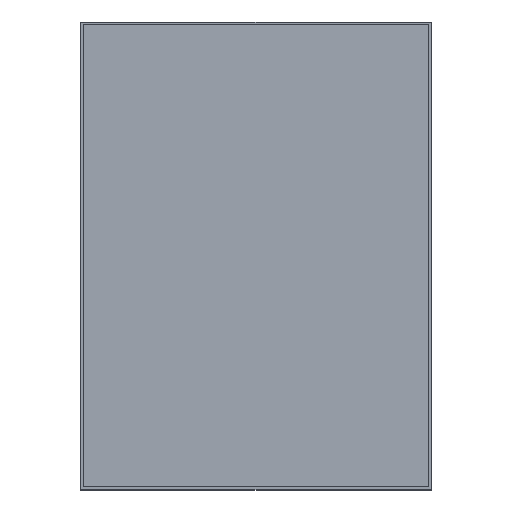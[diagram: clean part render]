
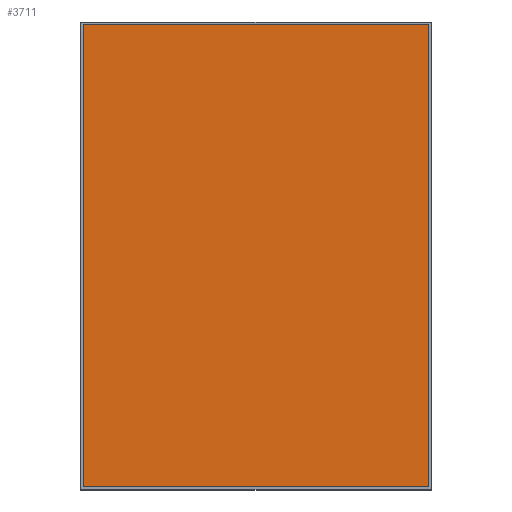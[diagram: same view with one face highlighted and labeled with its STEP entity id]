
A CAD part, top view. The second image highlights one B-rep face of the part: STEP entity #3711.
In plain terms, the highlighted planar face has unit normal (0, 0, 1).
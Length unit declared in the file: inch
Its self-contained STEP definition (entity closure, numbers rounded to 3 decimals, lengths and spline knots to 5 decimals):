
#1163=DIRECTION('',(1.,0.,0.));
#1164=VECTOR('',#1163,11.82);
#1165=CARTESIAN_POINT('',(-5.9164,-7.91,8.8));
#1166=LINE('',#1165,#1164);
#1167=DIRECTION('',(0.,-1.,0.));
#1168=VECTOR('',#1167,15.82);
#1169=CARTESIAN_POINT('',(-5.9164,7.91,8.8));
#1170=LINE('',#1169,#1168);
#1171=DIRECTION('',(-1.,0.,0.));
#1172=VECTOR('',#1171,11.82);
#1173=CARTESIAN_POINT('',(5.9036,7.91,8.8));
#1174=LINE('',#1173,#1172);
#1175=DIRECTION('',(0.,1.,0.));
#1176=VECTOR('',#1175,15.82);
#1177=CARTESIAN_POINT('',(5.9036,-7.91,8.8));
#1178=LINE('',#1177,#1176);
#1935=CARTESIAN_POINT('',(5.9036,-7.91,8.8));
#1936=VERTEX_POINT('',#1935);
#1937=CARTESIAN_POINT('',(-5.9164,-7.91,8.8));
#1938=VERTEX_POINT('',#1937);
#1939=CARTESIAN_POINT('',(-5.9164,7.91,8.8));
#1940=VERTEX_POINT('',#1939);
#1941=CARTESIAN_POINT('',(5.9036,7.91,8.8));
#1942=VERTEX_POINT('',#1941);
#3700=CARTESIAN_POINT('',(-0.0064,0.,8.8));
#3701=DIRECTION('',(0.,0.,1.));
#3702=DIRECTION('',(1.,0.,0.));
#3703=AXIS2_PLACEMENT_3D('',#3700,#3701,#3702);
#3704=PLANE('',#3703);
#3705=ORIENTED_EDGE('',*,*,#3652,.F.);
#3706=ORIENTED_EDGE('',*,*,#3668,.F.);
#3707=ORIENTED_EDGE('',*,*,#3681,.F.);
#3708=ORIENTED_EDGE('',*,*,#3693,.F.);
#3709=EDGE_LOOP('',(#3705,#3706,#3707,#3708));
#3710=FACE_OUTER_BOUND('',#3709,.F.);
#3711=ADVANCED_FACE('',(#3710),#3704,.T.);
#3652=EDGE_CURVE('',#1938,#1936,#1166,.T.);
#3668=EDGE_CURVE('',#1940,#1938,#1170,.T.);
#3681=EDGE_CURVE('',#1942,#1940,#1174,.T.);
#3693=EDGE_CURVE('',#1936,#1942,#1178,.T.);
